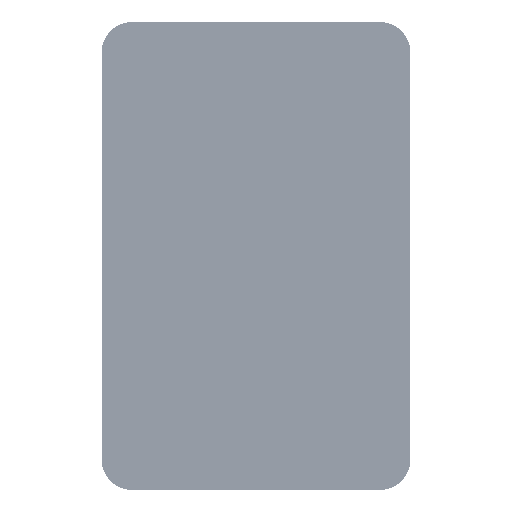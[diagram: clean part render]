
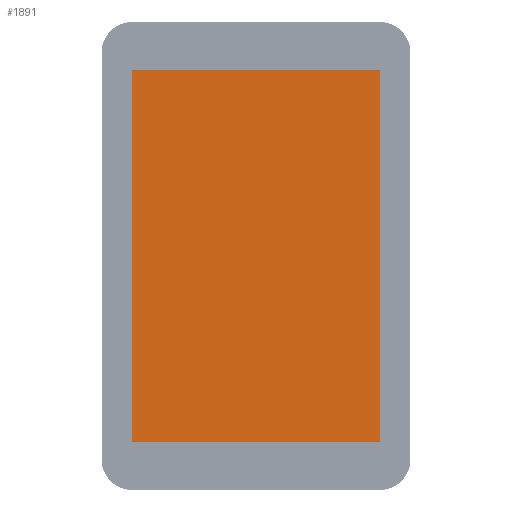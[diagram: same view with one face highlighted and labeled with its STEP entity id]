
A CAD part, top view. The second image highlights one B-rep face of the part: STEP entity #1891.
In plain terms, the highlighted planar face has unit normal (0, 0, 1).
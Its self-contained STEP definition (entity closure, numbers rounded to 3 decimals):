
#448=DIRECTION('',(0.,-1.,0.));
#449=VECTOR('',#448,73.44);
#450=CARTESIAN_POINT('',(-24.48,36.72,1.));
#451=LINE('',#450,#449);
#455=DIRECTION('',(-1.,0.,0.));
#456=VECTOR('',#455,48.96);
#457=CARTESIAN_POINT('',(24.48,36.72,1.));
#458=LINE('',#457,#456);
#462=DIRECTION('',(0.,1.,0.));
#463=VECTOR('',#462,73.44);
#464=CARTESIAN_POINT('',(24.48,-36.72,1.));
#465=LINE('',#464,#463);
#469=DIRECTION('',(1.,0.,0.));
#470=VECTOR('',#469,48.96);
#471=CARTESIAN_POINT('',(-24.48,-36.72,1.));
#472=LINE('',#471,#470);
#1224=CARTESIAN_POINT('',(-24.48,36.72,1.));
#1225=CARTESIAN_POINT('',(-24.48,-36.72,1.));
#1226=VERTEX_POINT('',#1224);
#1227=VERTEX_POINT('',#1225);
#1228=CARTESIAN_POINT('',(24.48,-36.72,1.));
#1229=VERTEX_POINT('',#1228);
#1230=CARTESIAN_POINT('',(24.48,36.72,1.));
#1231=VERTEX_POINT('',#1230);
#1880=CARTESIAN_POINT('',(0.,0.,1.));
#1881=DIRECTION('',(0.,0.,1.));
#1882=DIRECTION('',(1.,0.,0.));
#1883=AXIS2_PLACEMENT_3D('',#1880,#1881,#1882);
#1884=PLANE('',#1883);
#1885=ORIENTED_EDGE('',*,*,#1832,.F.);
#1886=ORIENTED_EDGE('',*,*,#1847,.F.);
#1887=ORIENTED_EDGE('',*,*,#1861,.F.);
#1888=ORIENTED_EDGE('',*,*,#1874,.F.);
#1889=EDGE_LOOP('',(#1885,#1886,#1887,#1888));
#1890=FACE_OUTER_BOUND('',#1889,.F.);
#1891=ADVANCED_FACE('',(#1890),#1884,.T.);
#1832=EDGE_CURVE('',#1226,#1227,#451,.T.);
#1847=EDGE_CURVE('',#1231,#1226,#458,.T.);
#1861=EDGE_CURVE('',#1229,#1231,#465,.T.);
#1874=EDGE_CURVE('',#1227,#1229,#472,.T.);
